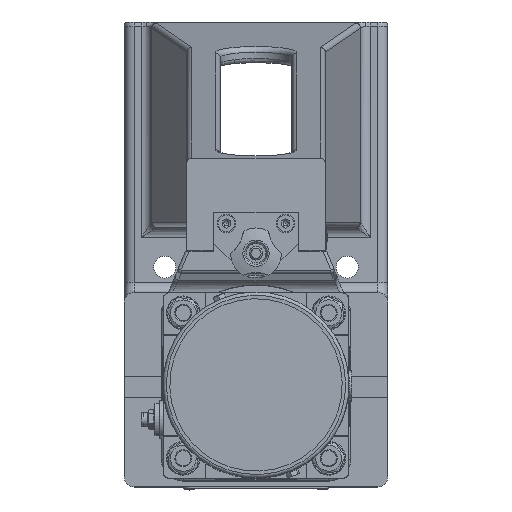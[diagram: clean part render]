
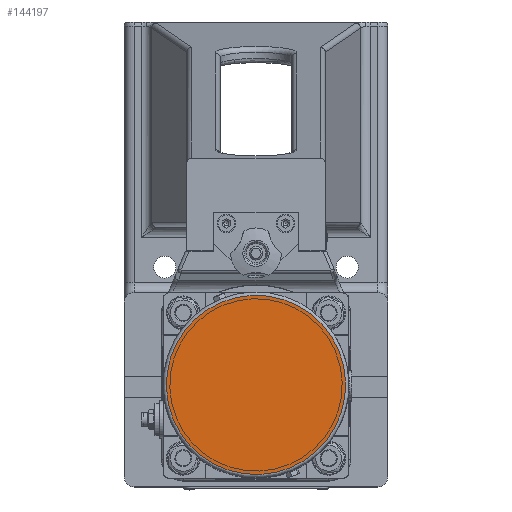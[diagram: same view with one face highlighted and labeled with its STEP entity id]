
A CAD part, top view. The second image highlights one B-rep face of the part: STEP entity #144197.
In plain terms, the highlighted planar face has unit normal (0, 0, 1).
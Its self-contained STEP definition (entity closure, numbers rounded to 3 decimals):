
#38404=PLANE('',#151459);
#45376=FACE_OUTER_BOUND('',#53093,.T.);
#53093=EDGE_LOOP('',(#111968));
#58361=CIRCLE('',#151458,53.);
#65372=VERTEX_POINT('',#213254);
#82133=EDGE_CURVE('',#65372,#65372,#58361,.T.);
#111968=ORIENTED_EDGE('',*,*,#82133,.F.);
#144197=ADVANCED_FACE('',(#45376),#38404,.F.);
#151458=AXIS2_PLACEMENT_3D('',#213255,#168612,#168613);
#151459=AXIS2_PLACEMENT_3D('',#213256,#168614,#168615);
#168612=DIRECTION('center_axis',(0.,0.,
-1.));
#168613=DIRECTION('ref_axis',(-0.924,-0.383,0.));
#168614=DIRECTION('center_axis',(0.,0.,
-1.));
#168615=DIRECTION('ref_axis',(-0.924,-0.383,0.));
#213254=CARTESIAN_POINT('',(48.966,6.282,512.));
#213255=CARTESIAN_POINT('Origin',(0.,-14.,
512.));
#213256=CARTESIAN_POINT('Origin',(0.,-14.,
512.));
